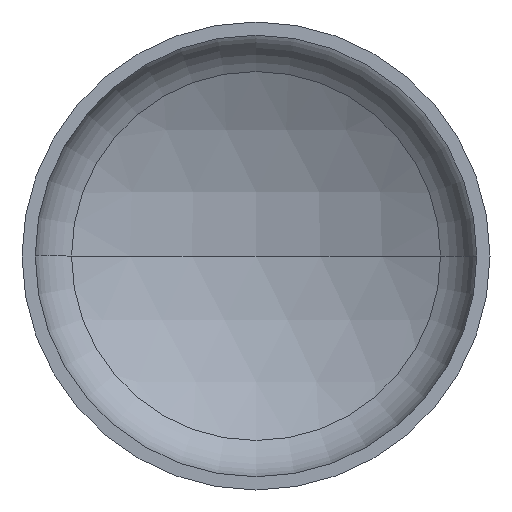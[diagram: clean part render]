
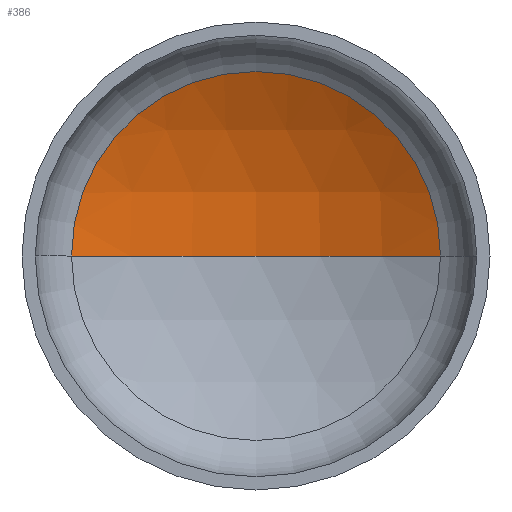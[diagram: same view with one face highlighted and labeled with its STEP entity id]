
A CAD part, front view. The second image highlights one B-rep face of the part: STEP entity #386.
In plain terms, the highlighted spherical face has radius 1360 mm.
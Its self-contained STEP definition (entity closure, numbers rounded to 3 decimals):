
#2 = ORIENTED_EDGE ( 'NONE', *, *, #344, .T. ) ;
#6 = CARTESIAN_POINT ( 'NONE',  ( 0., 376.248, 0. ) ) ;
#7 = AXIS2_PLACEMENT_3D ( 'NONE', #138, #140, #246 ) ;
#10 = AXIS2_PLACEMENT_3D ( 'NONE', #72, #81, #329 ) ;
#23 = ORIENTED_EDGE ( 'NONE', *, *, #346, .F. ) ;
#31 = VERTEX_POINT ( 'NONE', #280 ) ;
#50 = AXIS2_PLACEMENT_3D ( 'NONE', #6, #220, #65 ) ;
#65 = DIRECTION ( 'NONE',  ( 1., 0., 0. ) ) ;
#72 = CARTESIAN_POINT ( 'NONE',  ( 0., -807.202, 0. ) ) ;
#81 = DIRECTION ( 'NONE',  ( 0., 0., -1. ) ) ;
#85 = SPHERICAL_SURFACE ( 'NONE', #129, 1360. ) ;
#86 = VERTEX_POINT ( 'NONE', #177 ) ;
#102 = EDGE_CURVE ( 'NONE', #86, #399, #367, .T. ) ;
#122 = DIRECTION ( 'NONE',  ( -1., 0., 0. ) ) ;
#129 = AXIS2_PLACEMENT_3D ( 'NONE', #408, #284, #122 ) ;
#138 = CARTESIAN_POINT ( 'NONE',  ( 0., -807.202, 0. ) ) ;
#140 = DIRECTION ( 'NONE',  ( 0., 0., 1. ) ) ;
#146 = ORIENTED_EDGE ( 'NONE', *, *, #102, .T. ) ;
#161 = FACE_OUTER_BOUND ( 'NONE', #339, .T. ) ;
#177 = CARTESIAN_POINT ( 'NONE',  ( 670.109, 376.248, 0. ) ) ;
#183 = CIRCLE ( 'NONE', #7, 1360. ) ;
#220 = DIRECTION ( 'NONE',  ( 0., -1., 0. ) ) ;
#246 = DIRECTION ( 'NONE',  ( 1., 0., 0. ) ) ;
#280 = CARTESIAN_POINT ( 'NONE',  ( 0., 552.798, 0. ) ) ;
#284 = DIRECTION ( 'NONE',  ( 0., 0., -1. ) ) ;
#329 = DIRECTION ( 'NONE',  ( -1., 0., 0. ) ) ;
#337 = CARTESIAN_POINT ( 'NONE',  ( -670.109, 376.248, 0. ) ) ;
#339 = EDGE_LOOP ( 'NONE', ( #23, #2, #146 ) ) ;
#344 = EDGE_CURVE ( 'NONE', #31, #86, #392, .T. ) ;
#346 = EDGE_CURVE ( 'NONE', #31, #399, #183, .T. ) ;
#367 = CIRCLE ( 'NONE', #50, 670.109 ) ;
#386 = ADVANCED_FACE ( 'NONE', ( #161 ), #85, .F. ) ;
#392 = CIRCLE ( 'NONE', #10, 1360. ) ;
#399 = VERTEX_POINT ( 'NONE', #337 ) ;
#408 = CARTESIAN_POINT ( 'NONE',  ( 0., -807.202, 0. ) ) ;
